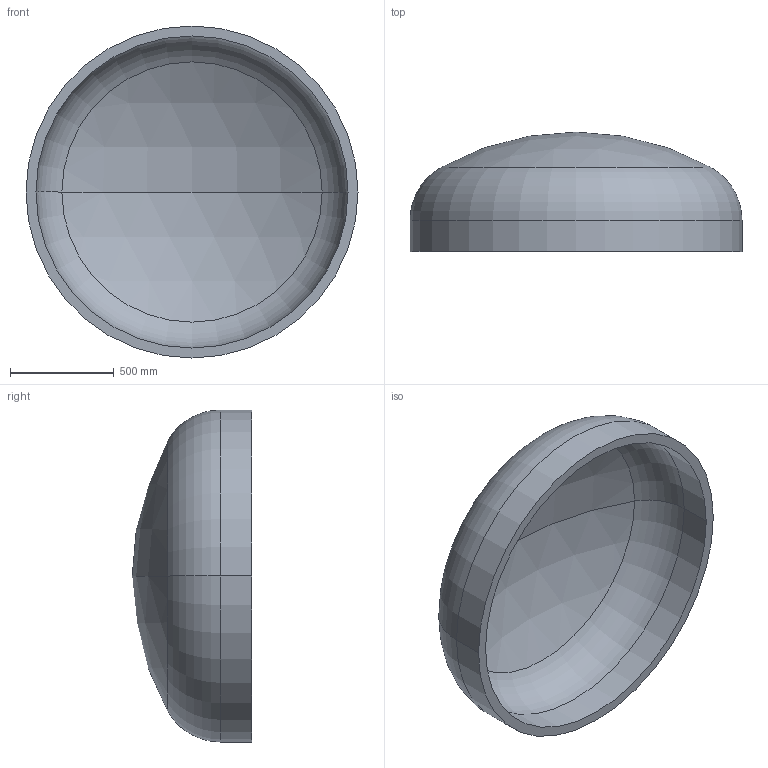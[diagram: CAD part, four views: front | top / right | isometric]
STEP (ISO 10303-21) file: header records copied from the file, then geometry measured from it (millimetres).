
FILE_DESCRIPTION (( 'STEP AP203' ), '1' );
FILE_NAME ('DIN 28013 Korbbogenform_-_Boden DIN 28013 - 1600 x 150 - I - s=48.step', '2016-07-01T11:18:54', ( '' ), ( '' ), 'SwSTEP 2.0', 'SolidWorks 2013', '' );
FILE_SCHEMA (( 'CONFIG_CONTROL_DESIGN' ));
Length unit declared in the file: millimetre
Products named in the file (1): DIN 28013 Korbbogenform_-_Boden DIN 28013 - 1600 x 150 - I - s=48
Bounding box: 1600 x 575.68 x 1600 mm (x, y, z)
Volume: 163486086.3 mm3; surface area: 7050780 mm2
Topology: 1 solids, 1 shells, 13 faces, 24 edges, 14 vertices
Faces by surface type: torus 4, cylinder 4, sphere 4, plane 1
Entity records: 407 total; most frequent: DIRECTION 72, CARTESIAN_POINT 52, ORIENTED_EDGE 48, AXIS2_PLACEMENT_3D 34, EDGE_CURVE 24, CIRCLE 20, EDGE_LOOP 14, VERTEX_POINT 14
